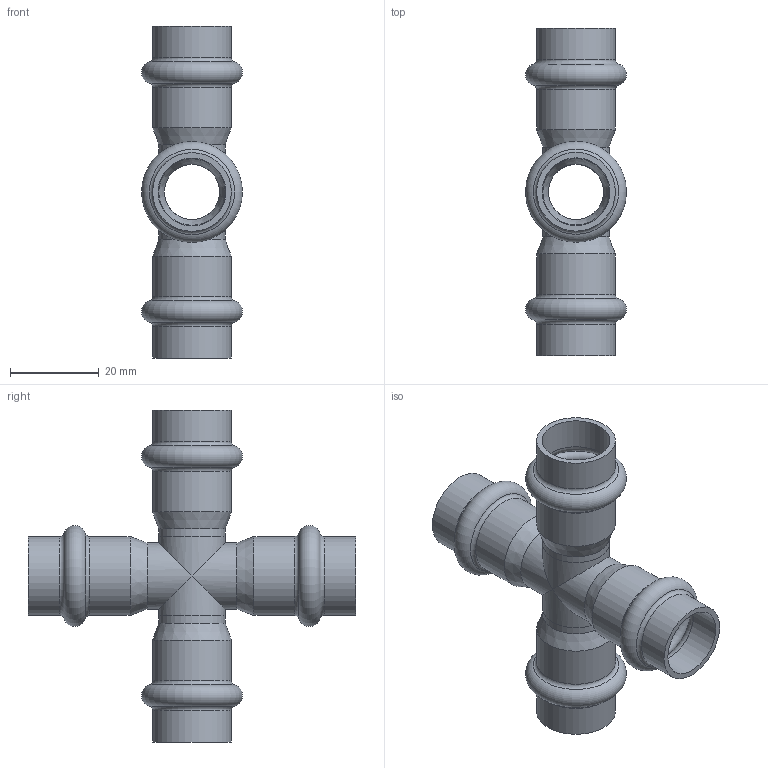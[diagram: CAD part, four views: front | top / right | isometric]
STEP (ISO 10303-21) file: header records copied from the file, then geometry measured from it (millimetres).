
FILE_DESCRIPTION(('STEP AP203'), '1');
FILE_NAME('ÂÐ.302669.005.000 ÑÁ - VTi.941.I.001515 Êðåñò. Äó15', '2024-02-29T12:41:41', ('User'), ('Vesta'), 'C3D Converter', 'C3D Toolkit', '');
FILE_SCHEMA(('CONFIG_CONTROL_DESIGN'));
Length unit declared in the file: millimetre
Products named in the file (4): ВР.302669.005.000 СБ; ВР.735542.005; ВР.735542.001
Assembly tree (7 placements, depth 2):
  ВР.302669.005.000 СБ
    ВР.735542.005
    ВР.735542.001  x2
    (unnamed)  x4
Bounding box: 22.79 x 74 x 75 mm (x, y, z)
Volume: 10273.9 mm3; surface area: 16905.9 mm2
Topology: 7 solids, 7 shells, 72 faces, 146 edges, 78 vertices
Faces by surface type: cylinder 28, torus 28, plane 8, cone 8
Full cylindrical faces by diameter (mm): 12.5 x6, 15 x6, 15.3 x8, 17.8 x8
Entity records: 1902 total; most frequent: CARTESIAN_POINT 227, DIRECTION 221, ORIENTED_EDGE 130, AXIS2_PLACEMENT_3D 109, EDGE_LOOP 101, FACE_OUTER_BOUND 78, EDGE_CURVE 65, VERTEX_POINT 59
